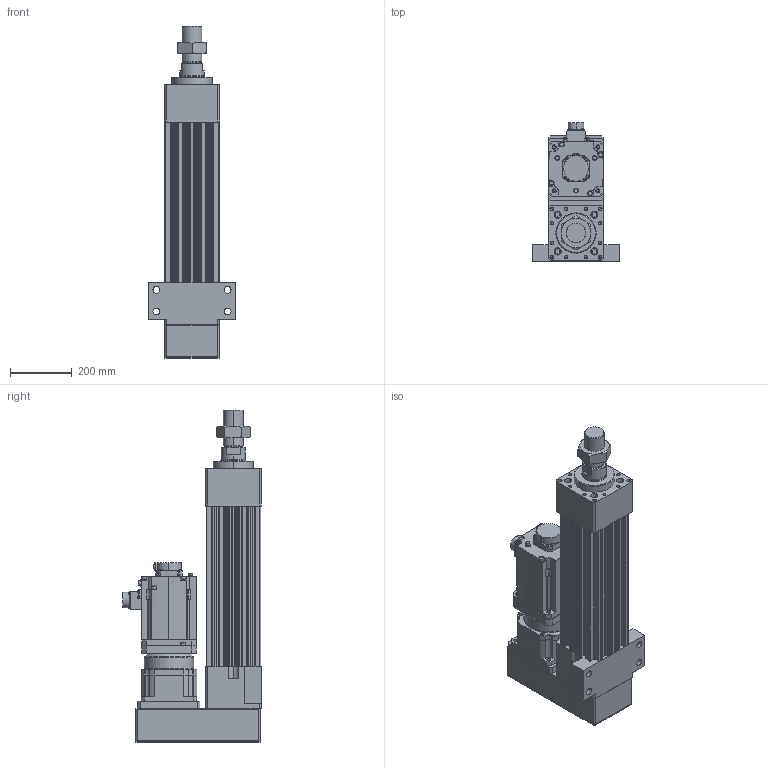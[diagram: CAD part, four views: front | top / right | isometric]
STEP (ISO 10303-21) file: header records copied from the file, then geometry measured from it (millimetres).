
FILE_DESCRIPTION (( 'STEP AP203' ), '1' );
FILE_NAME ('HES180HS-P200-W070G00-M-FFC.STEP', '2026-06-10T06:49:29', ( 'tms' ), ( '' ), 'SwSTEP 2.0', 'SolidWorks 2013', '' );
FILE_SCHEMA (( 'CONFIG_CONTROL_DESIGN' ));
Length unit declared in the file: millimetre
Products named in the file (9): AB1802; HG-SR702B; M64X2.0P; HES180-FFC-200; HES180HS-P200-W070G00-M-FFC; HES180-P-G180; AB1803; AB1801; HES180-M-ROD-200
Assembly tree (8 placements, depth 2):
  HES180HS-P200-W070G00-M-FFC
    HES180-FFC-200
    HES180-M-ROD-200
    M64X2.0P
    HES180-P-G180
    AB1801
    AB1802
    AB1803
    HG-SR702B
Bounding box: 280 x 447.1 x 1072 mm (x, y, z)
Volume: 27133381.7 mm3; surface area: 2336268.2 mm2
Topology: 5 solids, 20 shells, 1538 faces, 3985 edges, 2580 vertices
Faces by surface type: cylinder 708, plane 605, cone 158, bspline 63, torus 4
Entity records: 55722 total; most frequent: CARTESIAN_POINT 16516, DIRECTION 8271, ORIENTED_EDGE 7846, EDGE_CURVE 3947, AXIS2_PLACEMENT_3D 3115, VERTEX_POINT 2580, LINE 2041, VECTOR 2041
